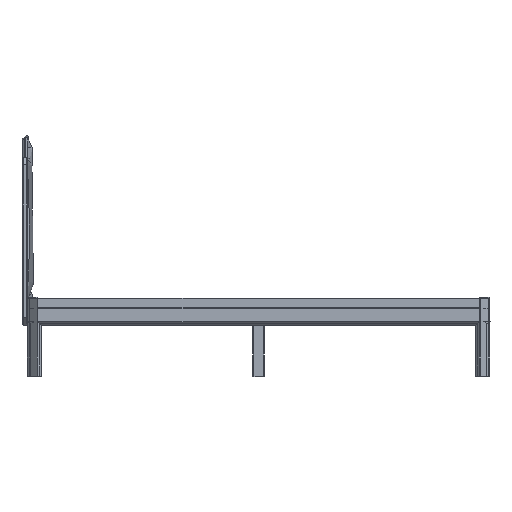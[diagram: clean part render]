
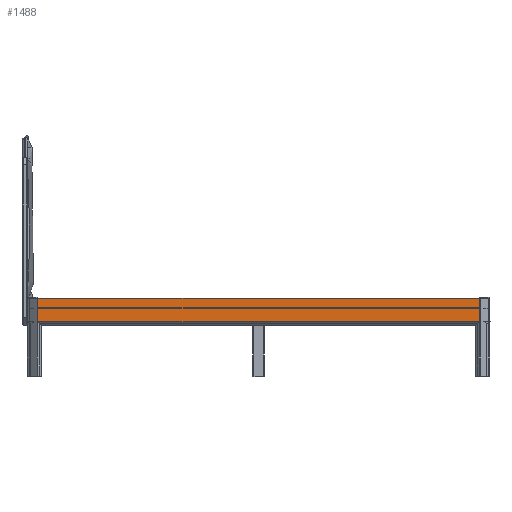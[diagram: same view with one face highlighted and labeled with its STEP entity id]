
A CAD part, left-side view. The second image highlights one B-rep face of the part: STEP entity #1488.
In plain terms, the highlighted planar face has unit normal (-1, 0, 0).
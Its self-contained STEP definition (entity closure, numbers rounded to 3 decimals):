
#1488=ADVANCED_FACE('',(#3194),#25429,.T.);
#3194=FACE_OUTER_BOUND('',#4914,.T.);
#4914=EDGE_LOOP('',(#9141,#9142,#9143,#9144,#9145,#9146));
#9141=ORIENTED_EDGE('',*,*,#15870,.F.);
#9142=ORIENTED_EDGE('',*,*,#15849,.F.);
#9143=ORIENTED_EDGE('',*,*,#15856,.F.);
#9144=ORIENTED_EDGE('',*,*,#15860,.F.);
#9145=ORIENTED_EDGE('',*,*,#15881,.T.);
#9146=ORIENTED_EDGE('',*,*,#15877,.T.);
#15849=EDGE_CURVE('',#23565,#23566,#21541,.T.);
#15856=EDGE_CURVE('',#23574,#23565,#21548,.T.);
#15860=EDGE_CURVE('',#23577,#23574,#21550,.T.);
#15870=EDGE_CURVE('',#23566,#23583,#19246,.T.);
#15877=EDGE_CURVE('',#23587,#23583,#21559,.T.);
#15881=EDGE_CURVE('',#23577,#23587,#21561,.T.);
#19246=(
BOUNDED_CURVE()
B_SPLINE_CURVE(1,(#49236,#49237),.UNSPECIFIED.,.F.,.F.)
B_SPLINE_CURVE_WITH_KNOTS((2,2),(0.,1918.396),.UNSPECIFIED.)
CURVE()
GEOMETRIC_REPRESENTATION_ITEM()
RATIONAL_B_SPLINE_CURVE((1.,1.))
REPRESENTATION_ITEM('')
);
#21541=B_SPLINE_CURVE_WITH_KNOTS('',1,(#49161,#49162),.UNSPECIFIED.,.F.,
 .F.,(2,2),(0.,100.963),.UNSPECIFIED.);
#21548=B_SPLINE_CURVE_WITH_KNOTS('',1,(#49203,#49204),.UNSPECIFIED.,.F.,
 .F.,(2,2),(0.,0.017),.UNSPECIFIED.);
#21550=B_SPLINE_CURVE_WITH_KNOTS('',1,(#49211,#49212),.UNSPECIFIED.,.F.,
 .F.,(2,2),(0.,1918.371),.UNSPECIFIED.);
#21559=B_SPLINE_CURVE_WITH_KNOTS('',1,(#49253,#49254),.UNSPECIFIED.,.F.,
 .F.,(2,2),(0.,100.963),.UNSPECIFIED.);
#21561=B_SPLINE_CURVE_WITH_KNOTS('',1,(#49263,#49264),.UNSPECIFIED.,.F.,
 .F.,(2,2),(-0.017,0.),.UNSPECIFIED.);
#23565=VERTEX_POINT('',#49134);
#23566=VERTEX_POINT('',#49135);
#23574=VERTEX_POINT('',#49143);
#23577=VERTEX_POINT('',#49146);
#23583=VERTEX_POINT('',#49152);
#23587=VERTEX_POINT('',#49156);
#25429=PLANE('',#26774);
#26774=AXIS2_PLACEMENT_3D('',#49127,#28160,$);
#28160=DIRECTION('',(-1.,0.,0.));
#49127=CARTESIAN_POINT('',(-4205.5,1154.552,227.32));
#49134=CARTESIAN_POINT('',(-4205.5,962.7,237.441));
#49135=CARTESIAN_POINT('',(-4205.5,962.7,338.404));
#49143=CARTESIAN_POINT('',(-4205.5,962.688,237.429));
#49146=CARTESIAN_POINT('',(-4205.5,-955.684,237.429));
#49152=CARTESIAN_POINT('',(-4205.5,-955.696,338.404));
#49156=CARTESIAN_POINT('',(-4205.5,-955.696,237.441));
#49161=CARTESIAN_POINT('',(-4205.5,962.7,237.441));
#49162=CARTESIAN_POINT('',(-4205.5,962.7,338.404));
#49203=CARTESIAN_POINT('',(-4205.5,962.688,237.429));
#49204=CARTESIAN_POINT('',(-4205.5,962.7,237.441));
#49211=CARTESIAN_POINT('',(-4205.5,-955.684,237.429));
#49212=CARTESIAN_POINT('',(-4205.5,962.688,237.429));
#49236=CARTESIAN_POINT('',(-4205.5,962.7,338.404));
#49237=CARTESIAN_POINT('',(-4205.5,-955.696,338.404));
#49253=CARTESIAN_POINT('',(-4205.5,-955.696,237.441));
#49254=CARTESIAN_POINT('',(-4205.5,-955.696,338.404));
#49263=CARTESIAN_POINT('',(-4205.5,-955.684,237.429));
#49264=CARTESIAN_POINT('',(-4205.5,-955.696,237.441));
